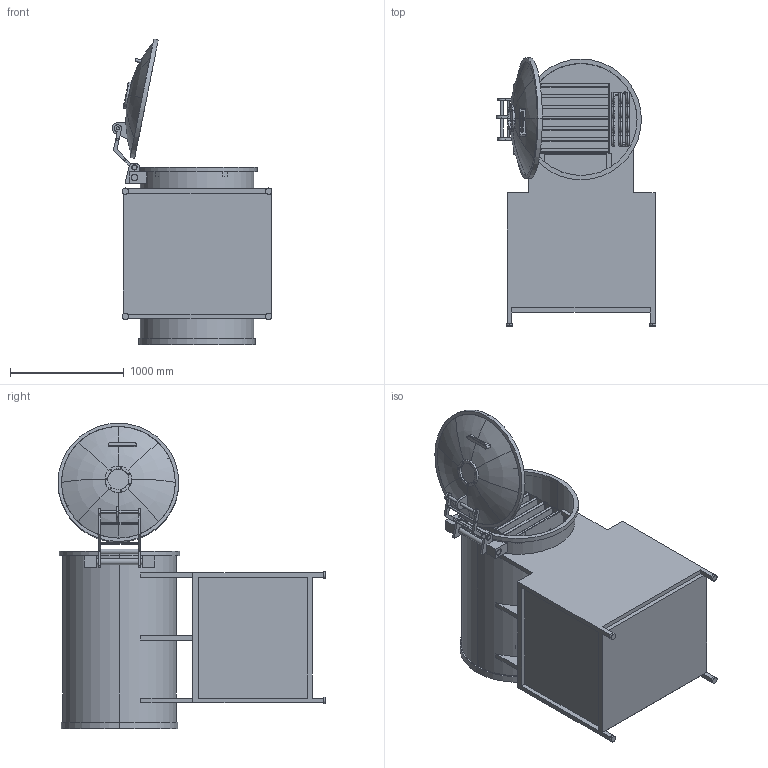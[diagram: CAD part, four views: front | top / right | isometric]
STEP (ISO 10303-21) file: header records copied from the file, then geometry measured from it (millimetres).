
FILE_DESCRIPTION(('CATIA V5 STEP Exchange'),'2;1');
FILE_NAME('C:\Users\제5강의실-27\Desktop\가치같이_내작업\freeze dryer.stp','2024-09-10T07:07:14+00:00',('none'),('none'),'CATIA Version 5-6 Release 2019','3DEXPERIENCE Platform STEP AP203 v1','none');
FILE_SCHEMA(('CONFIG_CONTROL_DESIGN'));
Length unit declared in the file: millimetre
Products named in the file (1): freeze dryer
Assembly tree (14 placements, depth 2):
  freeze dryer
    #57
    #1325
    #7347
    #8770  x7
    #9540
    #11517
    #16083
    #17962
Bounding box: 1405.19 x 2353.83 x 2686 mm (x, y, z)
Volume: 1568192709.9 mm3; surface area: 42031452 mm2
Topology: 26 solids, 30 shells, 864 faces, 2012 edges, 1213 vertices
Faces by surface type: plane 389, cylinder 271, torus 138, cone 56, bspline 10
Entity records: 20288 total; most frequent: CARTESIAN_POINT 5359, ORIENTED_EDGE 3302, DIRECTION 2411, EDGE_CURVE 1652, AXIS2_PLACEMENT_3D 1073, VERTEX_POINT 1009, VECTOR 879, LINE 879
